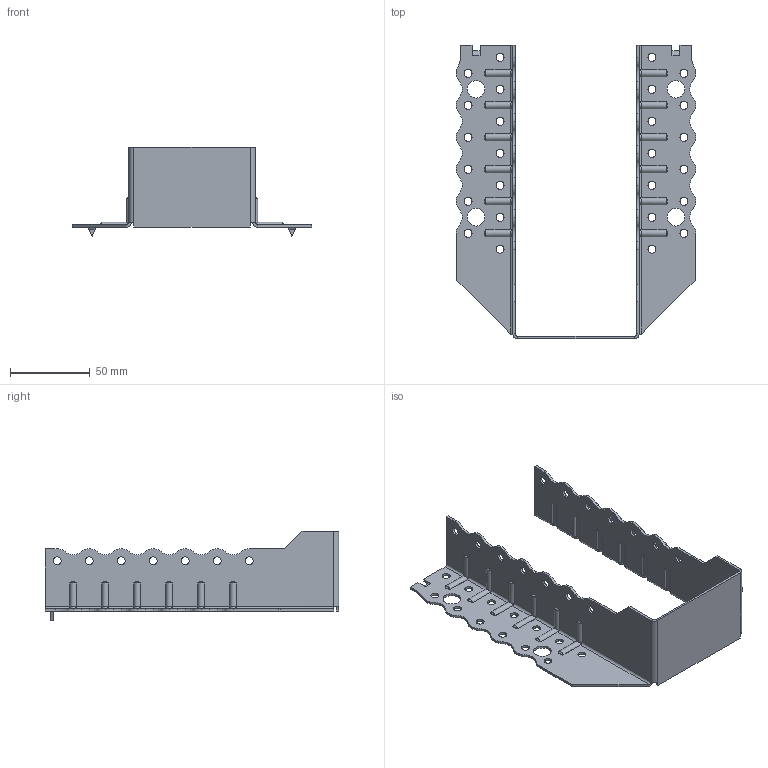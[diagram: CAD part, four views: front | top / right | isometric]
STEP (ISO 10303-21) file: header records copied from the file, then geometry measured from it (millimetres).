
FILE_DESCRIPTION (( 'STEP AP203' ), '1' );
FILE_NAME ('30626TOPK.STEP', '2021-04-08T14:59:51', ( '' ), ( '' ), 'SwSTEP 2.0', 'SolidWorks 2013', '' );
FILE_SCHEMA (( 'CONFIG_CONTROL_DESIGN' ));
Length unit declared in the file: millimetre
Products named in the file (1): 30626TOPK
Bounding box: 150 x 183.5 x 56 mm (x, y, z)
Volume: 41918.5 mm3; surface area: 59737.8 mm2
Topology: 1 solids, 1 shells, 496 faces, 1342 edges, 848 vertices
Faces by surface type: cylinder 315, plane 133, torus 24, bspline 24
Entity records: 18521 total; most frequent: CARTESIAN_POINT 5917, ORIENTED_EDGE 2684, DIRECTION 2582, EDGE_CURVE 1342, AXIS2_PLACEMENT_3D 943, VERTEX_POINT 848, LINE 696, VECTOR 696
